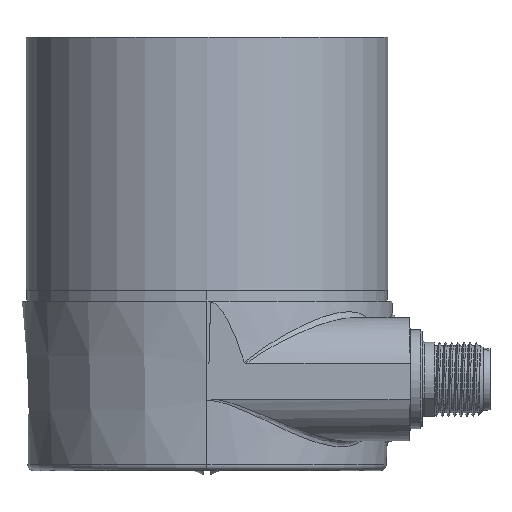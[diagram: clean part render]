
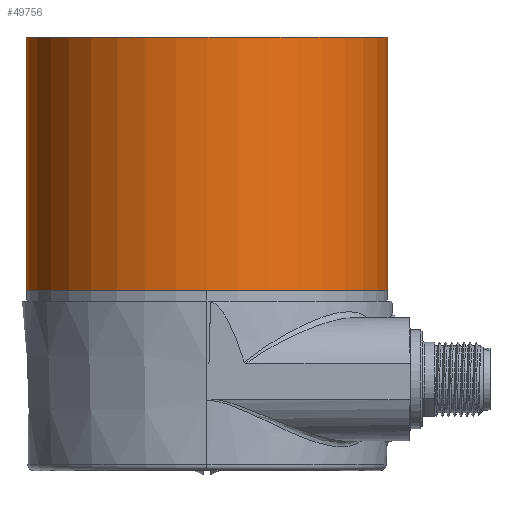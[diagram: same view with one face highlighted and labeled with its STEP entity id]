
A CAD part, left-side view. The second image highlights one B-rep face of the part: STEP entity #49756.
In plain terms, the highlighted cylindrical face has radius 29.3 mm (diameter 58.6 mm), a partial arc.
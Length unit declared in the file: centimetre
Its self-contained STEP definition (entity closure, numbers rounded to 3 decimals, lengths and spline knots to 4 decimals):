
#15640 = CARTESIAN_POINT ( 'NONE',  ( 0., 4.1, 2.93 ) ) ;
#15641 = DIRECTION ( 'NONE',  ( 0., 0., 1. ) ) ;
#15642 = DIRECTION ( 'NONE',  ( 0., 1., 0. ) ) ;
#15643 = AXIS2_PLACEMENT_3D ( 'NONE', #15649, #15642, #15641 ) ;
#15644 = CIRCLE ( 'NONE', #15643, 2.93 ) ;
#15649 = CARTESIAN_POINT ( 'NONE',  ( 0., 4.1, 0. ) ) ;
#15699 = CARTESIAN_POINT ( 'NONE',  ( 0., 4.1, -2.93 ) ) ;
#15746 = DIRECTION ( 'NONE',  ( 0., -1., 0. ) ) ;
#15747 = VECTOR ( 'NONE', #15746, 100. ) ;
#15748 = CARTESIAN_POINT ( 'NONE',  ( 0., 4.1, -2.93 ) ) ;
#15749 = LINE ( 'NONE', #15748, #15747 ) ;
#46222 = DIRECTION ( 'NONE',  ( 0., 0., -1. ) ) ;
#46224 = DIRECTION ( 'NONE',  ( 0., -1., 0. ) ) ;
#46226 = CARTESIAN_POINT ( 'NONE',  ( 0., 4.1, 0. ) ) ;
#46227 = AXIS2_PLACEMENT_3D ( 'NONE', #46226, #46224, #46222 ) ;
#46229 = CYLINDRICAL_SURFACE ( 'NONE', #46227, 2.93 ) ;
#46237 = FACE_OUTER_BOUND ( 'NONE', #49757, .T. ) ;
#46296 = CARTESIAN_POINT ( 'NONE',  ( 0., 0., -2.93 ) ) ;
#46298 = DIRECTION ( 'NONE',  ( 0., 0., 1. ) ) ;
#46299 = DIRECTION ( 'NONE',  ( 0., 1., 0. ) ) ;
#46300 = CARTESIAN_POINT ( 'NONE',  ( 0., 0., 0. ) ) ;
#46301 = AXIS2_PLACEMENT_3D ( 'NONE', #46300, #46299, #46298 ) ;
#46302 = CIRCLE ( 'NONE', #46301, 2.93 ) ;
#46315 = CARTESIAN_POINT ( 'NONE',  ( 0., 0., 2.93 ) ) ;
#46317 = DIRECTION ( 'NONE',  ( 0., -1., 0. ) ) ;
#46319 = VECTOR ( 'NONE', #46317, 100. ) ;
#46321 = CARTESIAN_POINT ( 'NONE',  ( 0., 4.1, 2.93 ) ) ;
#46322 = LINE ( 'NONE', #46321, #46319 ) ;
#49756 = ADVANCED_FACE ( 'NONE', ( #46237 ), #46229, .T. ) ;
#49757 = EDGE_LOOP ( 'NONE', ( #49830, #49762, #49768, #49773 ) ) ;
#49762 = ORIENTED_EDGE ( 'NONE', *, *, #49764, .T. ) ;
#49764 = EDGE_CURVE ( 'NONE', #49832, #49766, #46322, .T. ) ;
#49766 = VERTEX_POINT ( 'NONE', #46315 ) ;
#49768 = ORIENTED_EDGE ( 'NONE', *, *, #49770, .T. ) ;
#49770 = EDGE_CURVE ( 'NONE', #49766, #49771, #46302, .T. ) ;
#49771 = VERTEX_POINT ( 'NONE', #46296 ) ;
#49773 = ORIENTED_EDGE ( 'NONE', *, *, #49882, .F. ) ;
#49830 = ORIENTED_EDGE ( 'NONE', *, *, #49831, .F. ) ;
#49831 = EDGE_CURVE ( 'NONE', #49832, #49834, #15644, .T. ) ;
#49832 = VERTEX_POINT ( 'NONE', #15640 ) ;
#49834 = VERTEX_POINT ( 'NONE', #15699 ) ;
#49882 = EDGE_CURVE ( 'NONE', #49834, #49771, #15749, .T. ) ;
